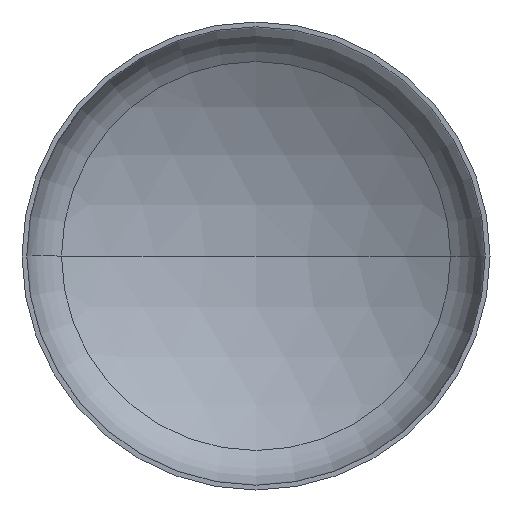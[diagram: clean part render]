
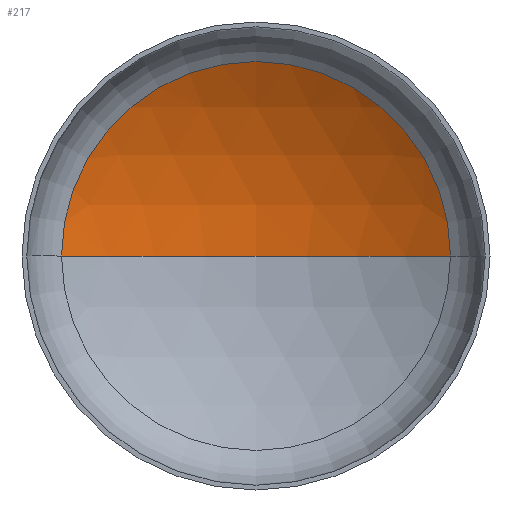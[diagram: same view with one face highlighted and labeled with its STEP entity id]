
A CAD part, front view. The second image highlights one B-rep face of the part: STEP entity #217.
In plain terms, the highlighted spherical face has radius 2720 mm.
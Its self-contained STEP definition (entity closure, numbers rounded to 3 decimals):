
#2 = AXIS2_PLACEMENT_3D ( 'NONE', #365, #216, #388 ) ;
#3 = AXIS2_PLACEMENT_3D ( 'NONE', #337, #190, #108 ) ;
#6 = AXIS2_PLACEMENT_3D ( 'NONE', #304, #172, #356 ) ;
#13 = VERTEX_POINT ( 'NONE', #201 ) ;
#37 = AXIS2_PLACEMENT_3D ( 'NONE', #206, #329, #170 ) ;
#48 = ORIENTED_EDGE ( 'NONE', *, *, #336, .T. ) ;
#64 = ORIENTED_EDGE ( 'NONE', *, *, #361, .T. ) ;
#82 = VERTEX_POINT ( 'NONE', #319 ) ;
#91 = VERTEX_POINT ( 'NONE', #222 ) ;
#94 = ORIENTED_EDGE ( 'NONE', *, *, #340, .F. ) ;
#108 = DIRECTION ( 'NONE',  ( 1., 0., 0. ) ) ;
#139 = EDGE_LOOP ( 'NONE', ( #94, #48, #64 ) ) ;
#170 = DIRECTION ( 'NONE',  ( -1., 0., 0. ) ) ;
#172 = DIRECTION ( 'NONE',  ( 0., 0., -1. ) ) ;
#185 = SPHERICAL_SURFACE ( 'NONE', #37, 2720. ) ;
#190 = DIRECTION ( 'NONE',  ( 0., -1., 0. ) ) ;
#201 = CARTESIAN_POINT ( 'NONE',  ( 1412.665, 558.641, 0. ) ) ;
#206 = CARTESIAN_POINT ( 'NONE',  ( 0., -1765.747, 0. ) ) ;
#216 = DIRECTION ( 'NONE',  ( 0., 0., 1. ) ) ;
#217 = ADVANCED_FACE ( 'NONE', ( #310 ), #185, .F. ) ;
#222 = CARTESIAN_POINT ( 'NONE',  ( 0., 954.253, 0. ) ) ;
#269 = CIRCLE ( 'NONE', #6, 2720. ) ;
#304 = CARTESIAN_POINT ( 'NONE',  ( 0., -1765.747, 0. ) ) ;
#310 = FACE_OUTER_BOUND ( 'NONE', #139, .T. ) ;
#319 = CARTESIAN_POINT ( 'NONE',  ( -1412.665, 558.641, 0. ) ) ;
#329 = DIRECTION ( 'NONE',  ( 0., 0., -1. ) ) ;
#330 = CIRCLE ( 'NONE', #2, 2720. ) ;
#336 = EDGE_CURVE ( 'NONE', #91, #13, #269, .T. ) ;
#337 = CARTESIAN_POINT ( 'NONE',  ( 0., 558.641, 0. ) ) ;
#340 = EDGE_CURVE ( 'NONE', #91, #82, #330, .T. ) ;
#356 = DIRECTION ( 'NONE',  ( -1., 0., 0. ) ) ;
#361 = EDGE_CURVE ( 'NONE', #13, #82, #400, .T. ) ;
#365 = CARTESIAN_POINT ( 'NONE',  ( 0., -1765.747, 0. ) ) ;
#388 = DIRECTION ( 'NONE',  ( 1., 0., 0. ) ) ;
#400 = CIRCLE ( 'NONE', #3, 1412.665 ) ;
